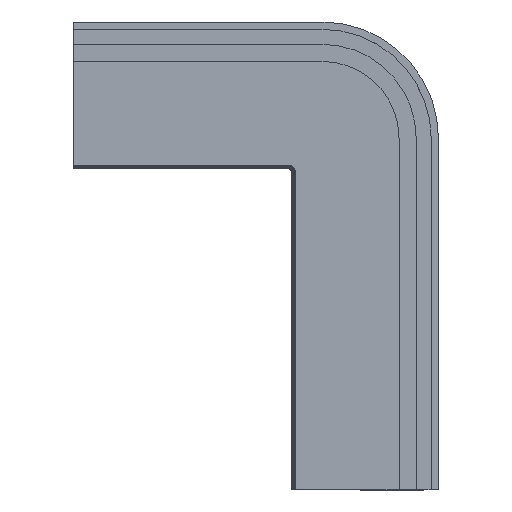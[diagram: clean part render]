
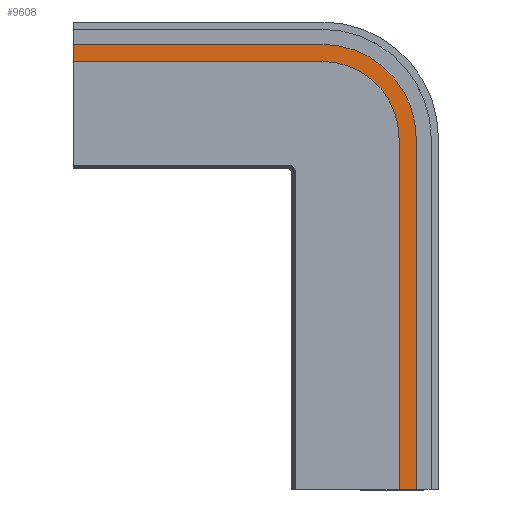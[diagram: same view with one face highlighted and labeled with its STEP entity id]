
A CAD part, top view. The second image highlights one B-rep face of the part: STEP entity #9608.
In plain terms, the highlighted planar face has unit normal (0, 0, 1).
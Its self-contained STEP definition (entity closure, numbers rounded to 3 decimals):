
#32 = PLANE('',#33);
#33 = AXIS2_PLACEMENT_3D('',#34,#35,#36);
#34 = CARTESIAN_POINT('',(110.,70.,-0.1));
#35 = DIRECTION('',(1.,0.,-0.));
#36 = DIRECTION('',(0.,0.,1.));
#81 = VERTEX_POINT('',#82);
#82 = CARTESIAN_POINT('',(110.,174.,22.5));
#95 = PLANE('',#96);
#96 = AXIS2_PLACEMENT_3D('',#97,#98,#99);
#97 = CARTESIAN_POINT('',(168.,174.,22.5));
#98 = DIRECTION('',(0.,-1.,0.));
#99 = DIRECTION('',(-1.,0.,0.));
#106 = EDGE_CURVE('',#81,#107,#109,.T.);
#107 = VERTEX_POINT('',#108);
#108 = CARTESIAN_POINT('',(110.,170.,22.5));
#109 = SURFACE_CURVE('',#110,(#114,#120),.PCURVE_S1.);
#110 = LINE('',#111,#112);
#111 = CARTESIAN_POINT('',(110.,33.779,22.5));
#112 = VECTOR('',#113,1.);
#113 = DIRECTION('',(0.,-1.,0.));
#114 = PCURVE('',#32,#115);
#115 = DEFINITIONAL_REPRESENTATION('',(#116),#119);
#116 = B_SPLINE_CURVE_WITH_KNOTS('',1,(#117,#118),.UNSPECIFIED.,.F.,.F.,
  (2,2),(-140.221,-36.221),.PIECEWISE_BEZIER_KNOTS.);
#117 = CARTESIAN_POINT('',(22.6,-104.));
#118 = CARTESIAN_POINT('',(22.6,0.));
#119 = ( GEOMETRIC_REPRESENTATION_CONTEXT(2) 
PARAMETRIC_REPRESENTATION_CONTEXT() REPRESENTATION_CONTEXT('2D SPACE',''
  ) );
#120 = PCURVE('',#121,#126);
#121 = PLANE('',#122);
#122 = AXIS2_PLACEMENT_3D('',#123,#124,#125);
#123 = CARTESIAN_POINT('',(0.,-2.442,22.5));
#124 = DIRECTION('',(0.,0.,1.));
#125 = DIRECTION('',(1.,0.,-0.));
#126 = DEFINITIONAL_REPRESENTATION('',(#127),#130);
#127 = B_SPLINE_CURVE_WITH_KNOTS('',1,(#128,#129),.UNSPECIFIED.,.F.,.F.,
  (2,2),(-140.221,-36.221),.PIECEWISE_BEZIER_KNOTS.);
#128 = CARTESIAN_POINT('',(110.,176.442));
#129 = CARTESIAN_POINT('',(110.,72.442));
#130 = ( GEOMETRIC_REPRESENTATION_CONTEXT(2) 
PARAMETRIC_REPRESENTATION_CONTEXT() REPRESENTATION_CONTEXT('2D SPACE',''
  ) );
#147 = PLANE('',#148);
#148 = AXIS2_PLACEMENT_3D('',#149,#150,#151);
#149 = CARTESIAN_POINT('',(168.,170.,22.4));
#150 = DIRECTION('',(0.,-1.,0.));
#151 = DIRECTION('',(-1.,0.,0.));
#2098 = PLANE('',#2099);
#2099 = AXIS2_PLACEMENT_3D('',#2100,#2101,#2102);
#2100 = CARTESIAN_POINT('',(110.,70.,-0.1));
#2101 = DIRECTION('',(-0.,1.,0.));
#2102 = DIRECTION('',(0.,0.,1.));
#8852 = PLANE('',#8853);
#8853 = AXIS2_PLACEMENT_3D('',#8854,#8855,#8856);
#8854 = CARTESIAN_POINT('',(186.,-170.,22.4));
#8855 = DIRECTION('',(-1.,0.,0.));
#8856 = DIRECTION('',(0.,1.,0.));
#8884 = CYLINDRICAL_SURFACE('',#8885,18.);
#8885 = AXIS2_PLACEMENT_3D('',#8886,#8887,#8888);
#8886 = CARTESIAN_POINT('',(168.,152.,22.4));
#8887 = DIRECTION('',(-0.,-0.,-1.));
#8888 = DIRECTION('',(1.,0.,-0.));
#9566 = EDGE_CURVE('',#107,#9567,#9569,.T.);
#9567 = VERTEX_POINT('',#9568);
#9568 = CARTESIAN_POINT('',(168.,170.,22.5));
#9569 = SURFACE_CURVE('',#9570,(#9574,#9580),.PCURVE_S1.);
#9570 = LINE('',#9571,#9572);
#9571 = CARTESIAN_POINT('',(84.,170.,22.5));
#9572 = VECTOR('',#9573,1.);
#9573 = DIRECTION('',(1.,0.,-0.));
#9574 = PCURVE('',#147,#9575);
#9575 = DEFINITIONAL_REPRESENTATION('',(#9576),#9579);
#9576 = B_SPLINE_CURVE_WITH_KNOTS('',1,(#9577,#9578),.UNSPECIFIED.,.F.,
  .F.,(2,2),(-252.,84.),.PIECEWISE_BEZIER_KNOTS.);
#9577 = CARTESIAN_POINT('',(336.,-0.1));
#9578 = CARTESIAN_POINT('',(0.,-0.1));
#9579 = ( GEOMETRIC_REPRESENTATION_CONTEXT(2) 
PARAMETRIC_REPRESENTATION_CONTEXT() REPRESENTATION_CONTEXT('2D SPACE',''
  ) );
#9580 = PCURVE('',#121,#9581);
#9581 = DEFINITIONAL_REPRESENTATION('',(#9582),#9585);
#9582 = B_SPLINE_CURVE_WITH_KNOTS('',1,(#9583,#9584),.UNSPECIFIED.,.F.,
  .F.,(2,2),(-252.,84.),.PIECEWISE_BEZIER_KNOTS.);
#9583 = CARTESIAN_POINT('',(-168.,172.442));
#9584 = CARTESIAN_POINT('',(168.,172.442));
#9585 = ( GEOMETRIC_REPRESENTATION_CONTEXT(2) 
PARAMETRIC_REPRESENTATION_CONTEXT() REPRESENTATION_CONTEXT('2D SPACE',''
  ) );
#9608 = ADVANCED_FACE('',(#9609),#121,.T.);
#9609 = FACE_BOUND('',#9610,.T.);
#9610 = EDGE_LOOP('',(#9611,#9641,#9670,#9691,#9692,#9693,#9721,#9742));
#9611 = ORIENTED_EDGE('',*,*,#9612,.T.);
#9612 = EDGE_CURVE('',#9613,#9615,#9617,.T.);
#9613 = VERTEX_POINT('',#9614);
#9614 = CARTESIAN_POINT('',(190.,70.,22.5));
#9615 = VERTEX_POINT('',#9616);
#9616 = CARTESIAN_POINT('',(190.,152.,22.5));
#9617 = SURFACE_CURVE('',#9618,(#9622,#9629),.PCURVE_S1.);
#9618 = LINE('',#9619,#9620);
#9619 = CARTESIAN_POINT('',(190.,-174.,22.5));
#9620 = VECTOR('',#9621,1.);
#9621 = DIRECTION('',(0.,1.,0.));
#9622 = PCURVE('',#121,#9623);
#9623 = DEFINITIONAL_REPRESENTATION('',(#9624),#9628);
#9624 = LINE('',#9625,#9626);
#9625 = CARTESIAN_POINT('',(190.,-171.558));
#9626 = VECTOR('',#9627,1.);
#9627 = DIRECTION('',(0.,1.));
#9628 = ( GEOMETRIC_REPRESENTATION_CONTEXT(2) 
PARAMETRIC_REPRESENTATION_CONTEXT() REPRESENTATION_CONTEXT('2D SPACE',''
  ) );
#9629 = PCURVE('',#9630,#9635);
#9630 = PLANE('',#9631);
#9631 = AXIS2_PLACEMENT_3D('',#9632,#9633,#9634);
#9632 = CARTESIAN_POINT('',(190.,-174.,22.5));
#9633 = DIRECTION('',(-1.,0.,0.));
#9634 = DIRECTION('',(0.,1.,0.));
#9635 = DEFINITIONAL_REPRESENTATION('',(#9636),#9640);
#9636 = LINE('',#9637,#9638);
#9637 = CARTESIAN_POINT('',(0.,0.));
#9638 = VECTOR('',#9639,1.);
#9639 = DIRECTION('',(1.,0.));
#9640 = ( GEOMETRIC_REPRESENTATION_CONTEXT(2) 
PARAMETRIC_REPRESENTATION_CONTEXT() REPRESENTATION_CONTEXT('2D SPACE',''
  ) );
#9641 = ORIENTED_EDGE('',*,*,#9642,.T.);
#9642 = EDGE_CURVE('',#9615,#9643,#9645,.T.);
#9643 = VERTEX_POINT('',#9644);
#9644 = CARTESIAN_POINT('',(168.,174.,22.5));
#9645 = SURFACE_CURVE('',#9646,(#9651,#9658),.PCURVE_S1.);
#9646 = CIRCLE('',#9647,22.);
#9647 = AXIS2_PLACEMENT_3D('',#9648,#9649,#9650);
#9648 = CARTESIAN_POINT('',(168.,152.,22.5));
#9649 = DIRECTION('',(0.,0.,1.));
#9650 = DIRECTION('',(1.,0.,-0.));
#9651 = PCURVE('',#121,#9652);
#9652 = DEFINITIONAL_REPRESENTATION('',(#9653),#9657);
#9653 = CIRCLE('',#9654,22.);
#9654 = AXIS2_PLACEMENT_2D('',#9655,#9656);
#9655 = CARTESIAN_POINT('',(168.,154.442));
#9656 = DIRECTION('',(1.,0.));
#9657 = ( GEOMETRIC_REPRESENTATION_CONTEXT(2) 
PARAMETRIC_REPRESENTATION_CONTEXT() REPRESENTATION_CONTEXT('2D SPACE',''
  ) );
#9658 = PCURVE('',#9659,#9664);
#9659 = CYLINDRICAL_SURFACE('',#9660,22.);
#9660 = AXIS2_PLACEMENT_3D('',#9661,#9662,#9663);
#9661 = CARTESIAN_POINT('',(168.,152.,22.5));
#9662 = DIRECTION('',(-0.,-0.,-1.));
#9663 = DIRECTION('',(1.,0.,-0.));
#9664 = DEFINITIONAL_REPRESENTATION('',(#9665),#9669);
#9665 = LINE('',#9666,#9667);
#9666 = CARTESIAN_POINT('',(-0.,0.));
#9667 = VECTOR('',#9668,1.);
#9668 = DIRECTION('',(-1.,0.));
#9669 = ( GEOMETRIC_REPRESENTATION_CONTEXT(2) 
PARAMETRIC_REPRESENTATION_CONTEXT() REPRESENTATION_CONTEXT('2D SPACE',''
  ) );
#9670 = ORIENTED_EDGE('',*,*,#9671,.T.);
#9671 = EDGE_CURVE('',#9643,#81,#9672,.T.);
#9672 = SURFACE_CURVE('',#9673,(#9677,#9684),.PCURVE_S1.);
#9673 = LINE('',#9674,#9675);
#9674 = CARTESIAN_POINT('',(168.,174.,22.5));
#9675 = VECTOR('',#9676,1.);
#9676 = DIRECTION('',(-1.,0.,0.));
#9677 = PCURVE('',#121,#9678);
#9678 = DEFINITIONAL_REPRESENTATION('',(#9679),#9683);
#9679 = LINE('',#9680,#9681);
#9680 = CARTESIAN_POINT('',(168.,176.442));
#9681 = VECTOR('',#9682,1.);
#9682 = DIRECTION('',(-1.,0.));
#9683 = ( GEOMETRIC_REPRESENTATION_CONTEXT(2) 
PARAMETRIC_REPRESENTATION_CONTEXT() REPRESENTATION_CONTEXT('2D SPACE',''
  ) );
#9684 = PCURVE('',#95,#9685);
#9685 = DEFINITIONAL_REPRESENTATION('',(#9686),#9690);
#9686 = LINE('',#9687,#9688);
#9687 = CARTESIAN_POINT('',(0.,-0.));
#9688 = VECTOR('',#9689,1.);
#9689 = DIRECTION('',(1.,0.));
#9690 = ( GEOMETRIC_REPRESENTATION_CONTEXT(2) 
PARAMETRIC_REPRESENTATION_CONTEXT() REPRESENTATION_CONTEXT('2D SPACE',''
  ) );
#9691 = ORIENTED_EDGE('',*,*,#106,.T.);
#9692 = ORIENTED_EDGE('',*,*,#9566,.T.);
#9693 = ORIENTED_EDGE('',*,*,#9694,.T.);
#9694 = EDGE_CURVE('',#9567,#9695,#9697,.T.);
#9695 = VERTEX_POINT('',#9696);
#9696 = CARTESIAN_POINT('',(186.,152.,22.5));
#9697 = SURFACE_CURVE('',#9698,(#9703,#9714),.PCURVE_S1.);
#9698 = CIRCLE('',#9699,18.);
#9699 = AXIS2_PLACEMENT_3D('',#9700,#9701,#9702);
#9700 = CARTESIAN_POINT('',(168.,152.,22.5));
#9701 = DIRECTION('',(0.,-0.,-1.));
#9702 = DIRECTION('',(1.,0.,-0.));
#9703 = PCURVE('',#121,#9704);
#9704 = DEFINITIONAL_REPRESENTATION('',(#9705),#9713);
#9705 = ( BOUNDED_CURVE() B_SPLINE_CURVE(2,(#9706,#9707,#9708,#9709,
#9710,#9711,#9712),.UNSPECIFIED.,.T.,.F.) B_SPLINE_CURVE_WITH_KNOTS((1,2
    ,2,2,2,1),(-2.094,0.,2.094,4.189,
6.283,8.378),.UNSPECIFIED.) CURVE() 
GEOMETRIC_REPRESENTATION_ITEM() RATIONAL_B_SPLINE_CURVE((1.,0.5,1.,0.5,
1.,0.5,1.)) REPRESENTATION_ITEM('') );
#9706 = CARTESIAN_POINT('',(186.,154.442));
#9707 = CARTESIAN_POINT('',(186.,123.265));
#9708 = CARTESIAN_POINT('',(159.,138.853));
#9709 = CARTESIAN_POINT('',(132.,154.442));
#9710 = CARTESIAN_POINT('',(159.,170.03));
#9711 = CARTESIAN_POINT('',(186.,185.619));
#9712 = CARTESIAN_POINT('',(186.,154.442));
#9713 = ( GEOMETRIC_REPRESENTATION_CONTEXT(2) 
PARAMETRIC_REPRESENTATION_CONTEXT() REPRESENTATION_CONTEXT('2D SPACE',''
  ) );
#9714 = PCURVE('',#8884,#9715);
#9715 = DEFINITIONAL_REPRESENTATION('',(#9716),#9720);
#9716 = LINE('',#9717,#9718);
#9717 = CARTESIAN_POINT('',(-6.283,-0.1));
#9718 = VECTOR('',#9719,1.);
#9719 = DIRECTION('',(1.,-0.));
#9720 = ( GEOMETRIC_REPRESENTATION_CONTEXT(2) 
PARAMETRIC_REPRESENTATION_CONTEXT() REPRESENTATION_CONTEXT('2D SPACE',''
  ) );
#9721 = ORIENTED_EDGE('',*,*,#9722,.T.);
#9722 = EDGE_CURVE('',#9695,#9723,#9725,.T.);
#9723 = VERTEX_POINT('',#9724);
#9724 = CARTESIAN_POINT('',(186.,70.,22.5));
#9725 = SURFACE_CURVE('',#9726,(#9730,#9736),.PCURVE_S1.);
#9726 = LINE('',#9727,#9728);
#9727 = CARTESIAN_POINT('',(186.,-86.221,22.5));
#9728 = VECTOR('',#9729,1.);
#9729 = DIRECTION('',(0.,-1.,0.));
#9730 = PCURVE('',#121,#9731);
#9731 = DEFINITIONAL_REPRESENTATION('',(#9732),#9735);
#9732 = B_SPLINE_CURVE_WITH_KNOTS('',1,(#9733,#9734),.UNSPECIFIED.,.F.,
  .F.,(2,2),(-238.221,83.779),.PIECEWISE_BEZIER_KNOTS.);
#9733 = CARTESIAN_POINT('',(186.,154.442));
#9734 = CARTESIAN_POINT('',(186.,-167.558));
#9735 = ( GEOMETRIC_REPRESENTATION_CONTEXT(2) 
PARAMETRIC_REPRESENTATION_CONTEXT() REPRESENTATION_CONTEXT('2D SPACE',''
  ) );
#9736 = PCURVE('',#8852,#9737);
#9737 = DEFINITIONAL_REPRESENTATION('',(#9738),#9741);
#9738 = B_SPLINE_CURVE_WITH_KNOTS('',1,(#9739,#9740),.UNSPECIFIED.,.F.,
  .F.,(2,2),(-238.221,83.779),.PIECEWISE_BEZIER_KNOTS.);
#9739 = CARTESIAN_POINT('',(322.,-0.1));
#9740 = CARTESIAN_POINT('',(0.,-0.1));
#9741 = ( GEOMETRIC_REPRESENTATION_CONTEXT(2) 
PARAMETRIC_REPRESENTATION_CONTEXT() REPRESENTATION_CONTEXT('2D SPACE',''
  ) );
#9742 = ORIENTED_EDGE('',*,*,#9743,.T.);
#9743 = EDGE_CURVE('',#9723,#9613,#9744,.T.);
#9744 = SURFACE_CURVE('',#9745,(#9749,#9755),.PCURVE_S1.);
#9745 = LINE('',#9746,#9747);
#9746 = CARTESIAN_POINT('',(55.,70.,22.5));
#9747 = VECTOR('',#9748,1.);
#9748 = DIRECTION('',(1.,0.,-0.));
#9749 = PCURVE('',#121,#9750);
#9750 = DEFINITIONAL_REPRESENTATION('',(#9751),#9754);
#9751 = B_SPLINE_CURVE_WITH_KNOTS('',1,(#9752,#9753),.UNSPECIFIED.,.F.,
  .F.,(2,2),(55.,135.),.PIECEWISE_BEZIER_KNOTS.);
#9752 = CARTESIAN_POINT('',(110.,72.442));
#9753 = CARTESIAN_POINT('',(190.,72.442));
#9754 = ( GEOMETRIC_REPRESENTATION_CONTEXT(2) 
PARAMETRIC_REPRESENTATION_CONTEXT() REPRESENTATION_CONTEXT('2D SPACE',''
  ) );
#9755 = PCURVE('',#2098,#9756);
#9756 = DEFINITIONAL_REPRESENTATION('',(#9757),#9760);
#9757 = B_SPLINE_CURVE_WITH_KNOTS('',1,(#9758,#9759),.UNSPECIFIED.,.F.,
  .F.,(2,2),(55.,135.),.PIECEWISE_BEZIER_KNOTS.);
#9758 = CARTESIAN_POINT('',(22.6,0.));
#9759 = CARTESIAN_POINT('',(22.6,80.));
#9760 = ( GEOMETRIC_REPRESENTATION_CONTEXT(2) 
PARAMETRIC_REPRESENTATION_CONTEXT() REPRESENTATION_CONTEXT('2D SPACE',''
  ) );
